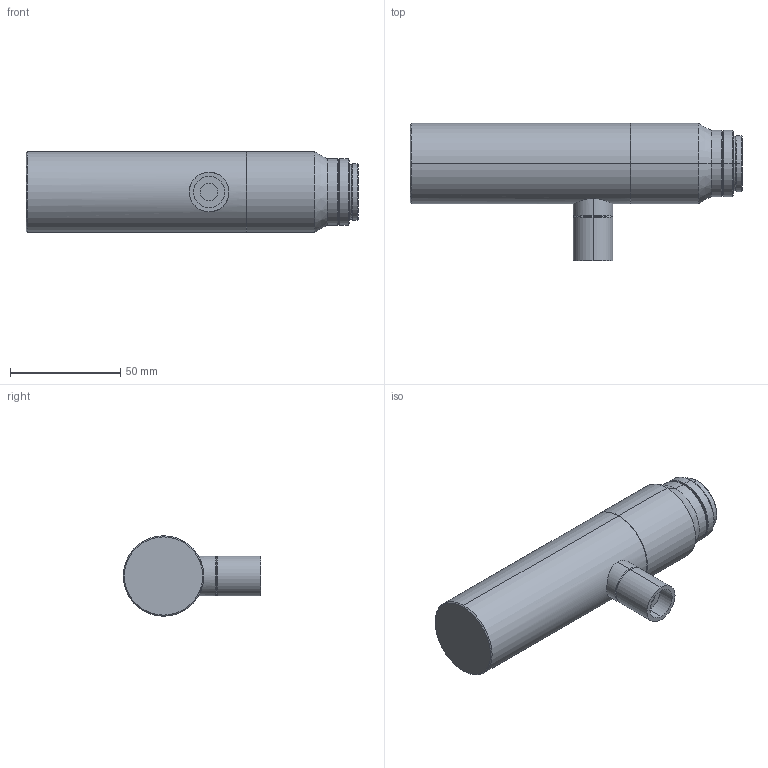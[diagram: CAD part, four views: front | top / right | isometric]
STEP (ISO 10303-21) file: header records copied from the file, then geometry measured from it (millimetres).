
FILE_DESCRIPTION (( 'STEP AP203' ), '1' );
FILE_NAME ('VS-TC1-220CO.STEP', '2015-06-29T04:58:27', ( 'miura_vst' ), ( '' ), 'SwSTEP 2.0', 'SolidWorks 2015', '' );
FILE_SCHEMA (( 'CONFIG_CONTROL_DESIGN' ));
Length unit declared in the file: millimetre
Products named in the file (1): VS-TC1-220CO
Bounding box: 150.51 x 62.3 x 36.5 mm (x, y, z)
Volume: 155705.2 mm3; surface area: 21015.1 mm2
Topology: 1 solids, 1 shells, 55 faces, 108 edges, 62 vertices
Faces by surface type: cone 24, cylinder 22, plane 9
Entity records: 1572 total; most frequent: CARTESIAN_POINT 323, DIRECTION 278, ORIENTED_EDGE 216, AXIS2_PLACEMENT_3D 116, EDGE_CURVE 108, VERTEX_POINT 62, EDGE_LOOP 62, CIRCLE 60
